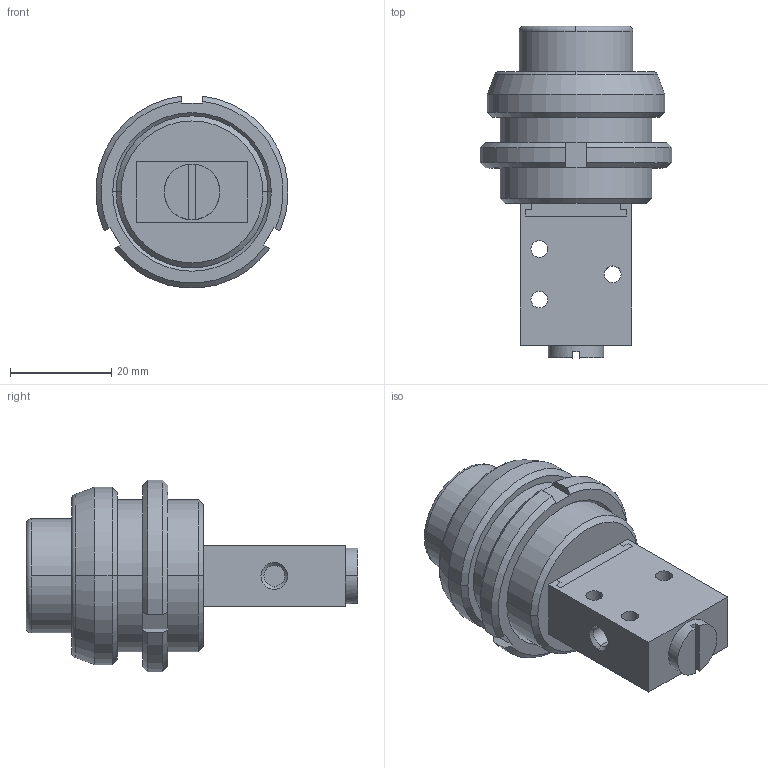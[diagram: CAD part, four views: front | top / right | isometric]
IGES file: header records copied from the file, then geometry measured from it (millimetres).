
Global section: file name: No Iges File Name specified; native system: AutoDesk Inventor R12.0; preprocessor: AutoDesk Inventor Iges Exporter R12.0; date: 20080225.141222; units: millimetre
Bounding box: 37.89 x 65.5 x 37.82 mm (x, y, z)
Volume: 32876.3 mm3; surface area: 9887 mm2
Topology: 3 solids, 3 shells, 97 faces, 238 edges, 154 vertices
Faces by surface type: plane 43, bspline 19, cone 12, cylinder 11, revolution 8, torus 4
